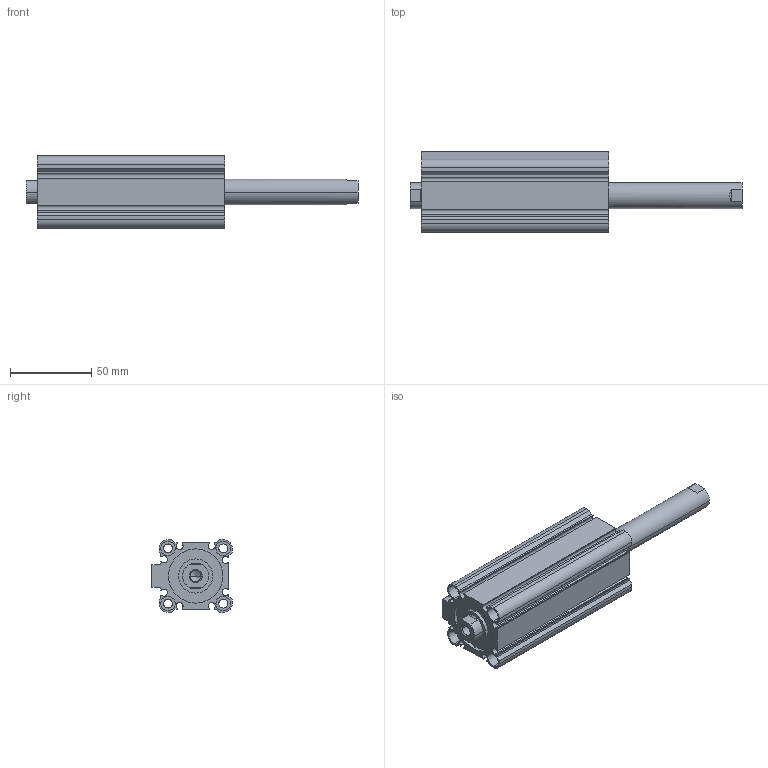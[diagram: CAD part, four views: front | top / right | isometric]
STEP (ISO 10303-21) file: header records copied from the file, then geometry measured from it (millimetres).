
FILE_DESCRIPTION (( 'STEP AP203' ), '1' );
FILE_NAME ('CCMB32-75F-P.STEP', '2020-08-05T11:16:26', ( '' ), ( '' ), 'SwSTEP 2.0', 'SolidWorks 2019', '' );
FILE_SCHEMA (( 'CONFIG_CONTROL_DESIGN' ));
Length unit declared in the file: millimetre
Products named in the file (1): CCMB32-75F-P
Bounding box: 204.5 x 49.5 x 45 mm (x, y, z)
Volume: 159529.1 mm3; surface area: 66991.4 mm2
Topology: 2 solids, 2 shells, 164 faces, 414 edges, 270 vertices
Faces by surface type: plane 78, cylinder 74, cone 12
Entity records: 5029 total; most frequent: DIRECTION 896, CARTESIAN_POINT 857, ORIENTED_EDGE 820, EDGE_CURVE 410, AXIS2_PLACEMENT_3D 325, VERTEX_POINT 270, VECTOR 246, LINE 246
